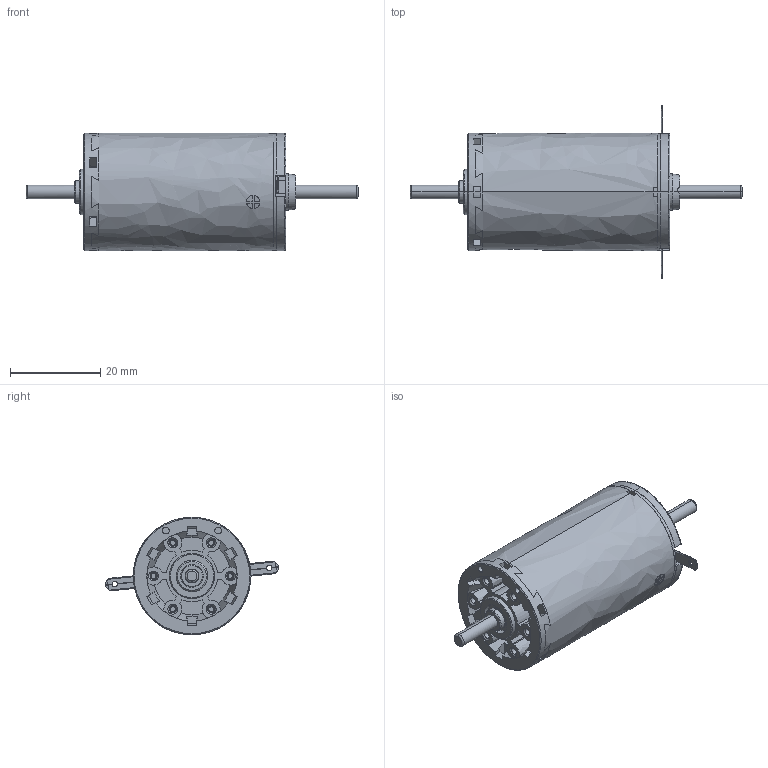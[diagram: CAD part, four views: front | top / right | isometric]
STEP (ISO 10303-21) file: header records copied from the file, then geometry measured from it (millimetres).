
FILE_DESCRIPTION(/* description */ (''),/* implementation_level */ '2;1');
FILE_NAME(/* name */ '09_110TERMINAL',/* time_stamp */ '2010-03-11T15:02:14+01:00',/* author */ (''),/* organization */ (''),/* preprocessor_version */ 'ST-DEVELOPER v8',/* originating_system */ '',/* authorisation */ '');
FILE_SCHEMA (('AUTOMOTIVE_DESIGN'));
Length unit declared in the file: millimetre
Products named in the file (1): 1
Bounding box: 73.5 x 38.32 x 26 mm (x, y, z)
Surface area: 6253.6 mm2 (no closed solid volume)
Topology: 0 solids, 1 shells, 444 faces, 1350 edges, 926 vertices
Faces by surface type: bspline 444
Entity records: 15895 total; most frequent: CARTESIAN_POINT 8425, ORIENTED_EDGE 2683, EDGE_CURVE 1348, VERTEX_POINT 926, B_SPLINE_CURVE_WITH_KNOTS 847, EDGE_LOOP 479, ADVANCED_FACE 442, FACE_OUTER_BOUND 442
